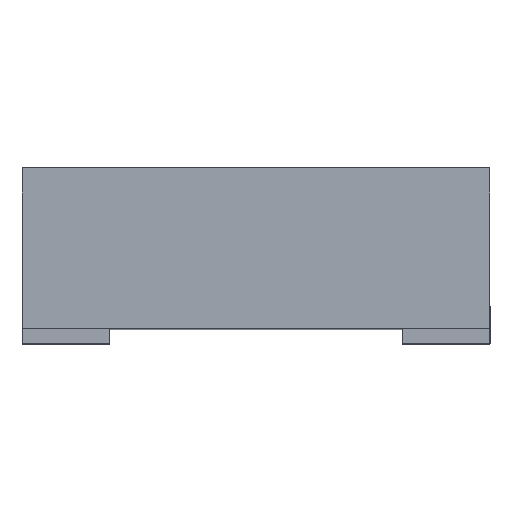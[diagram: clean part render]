
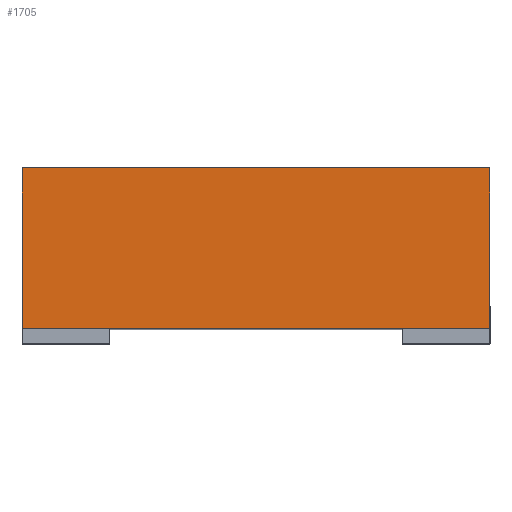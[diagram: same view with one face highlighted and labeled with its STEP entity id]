
A CAD part, top view. The second image highlights one B-rep face of the part: STEP entity #1705.
In plain terms, the highlighted planar face has unit normal (0, 0, 1).
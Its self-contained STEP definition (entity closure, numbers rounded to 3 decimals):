
#81 = VERTEX_POINT ( 'NONE', #1289 ) ;
#136 = DIRECTION ( 'NONE',  ( 1., 0., 0. ) ) ;
#260 = CARTESIAN_POINT ( 'NONE',  ( 0.8, 0.6, 0.8 ) ) ;
#276 = VERTEX_POINT ( 'NONE', #260 ) ;
#307 = EDGE_CURVE ( 'NONE', #1197, #1256, #741, .T. ) ;
#384 = ORIENTED_EDGE ( 'NONE', *, *, #2069, .F. ) ;
#401 = DIRECTION ( 'NONE',  ( 1., 0., 0. ) ) ;
#500 = DIRECTION ( 'NONE',  ( 0., 1., 0. ) ) ;
#504 = DIRECTION ( 'NONE',  ( 1., 0., 0. ) ) ;
#522 = PLANE ( 'NONE',  #1991 ) ;
#527 = CARTESIAN_POINT ( 'NONE',  ( -0.8, 0.05, 0.8 ) ) ;
#741 = LINE ( 'NONE', #1207, #1136 ) ;
#779 = CARTESIAN_POINT ( 'NONE',  ( -0.8, 0.6, 0.8 ) ) ;
#789 = VECTOR ( 'NONE', #868, 1000. ) ;
#868 = DIRECTION ( 'NONE',  ( 0., 1., 0. ) ) ;
#993 = VECTOR ( 'NONE', #401, 1000. ) ;
#1015 = VECTOR ( 'NONE', #500, 1000. ) ;
#1032 = DIRECTION ( 'NONE',  ( 0., 0., 1. ) ) ;
#1136 = VECTOR ( 'NONE', #136, 1000. ) ;
#1182 = CARTESIAN_POINT ( 'NONE',  ( -0.8, 0.05, 0.8 ) ) ;
#1194 = ORIENTED_EDGE ( 'NONE', *, *, #1251, .T. ) ;
#1197 = VERTEX_POINT ( 'NONE', #1182 ) ;
#1207 = CARTESIAN_POINT ( 'NONE',  ( -0.8, 0.05, 0.8 ) ) ;
#1209 = FACE_OUTER_BOUND ( 'NONE', #2213, .T. ) ;
#1251 = EDGE_CURVE ( 'NONE', #1256, #276, #1703, .T. ) ;
#1256 = VERTEX_POINT ( 'NONE', #2100 ) ;
#1289 = CARTESIAN_POINT ( 'NONE',  ( -0.8, 0.6, 0.8 ) ) ;
#1405 = CARTESIAN_POINT ( 'NONE',  ( -0.8, 0.05, 0.8 ) ) ;
#1549 = ORIENTED_EDGE ( 'NONE', *, *, #307, .T. ) ;
#1703 = LINE ( 'NONE', #2256, #1015 ) ;
#1705 = ADVANCED_FACE ( 'NONE', ( #1209 ), #522, .T. ) ;
#1892 = LINE ( 'NONE', #779, #993 ) ;
#1904 = EDGE_CURVE ( 'NONE', #81, #276, #1892, .T. ) ;
#1991 = AXIS2_PLACEMENT_3D ( 'NONE', #527, #1032, #504 ) ;
#2069 = EDGE_CURVE ( 'NONE', #1197, #81, #2165, .T. ) ;
#2100 = CARTESIAN_POINT ( 'NONE',  ( 0.8, 0.05, 0.8 ) ) ;
#2131 = ORIENTED_EDGE ( 'NONE', *, *, #1904, .F. ) ;
#2165 = LINE ( 'NONE', #1405, #789 ) ;
#2213 = EDGE_LOOP ( 'NONE', ( #2131, #384, #1549, #1194 ) ) ;
#2256 = CARTESIAN_POINT ( 'NONE',  ( 0.8, 0.05, 0.8 ) ) ;
